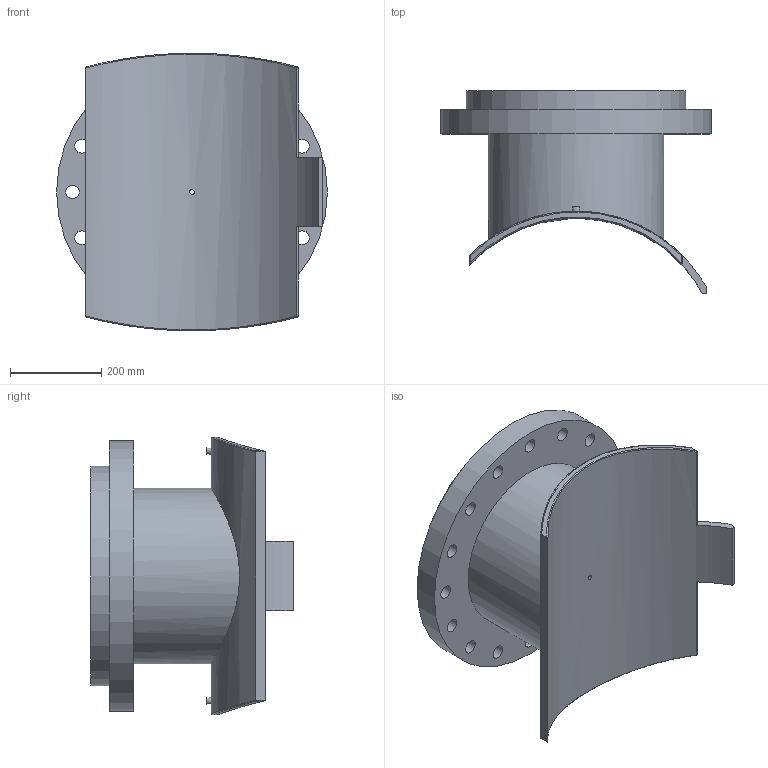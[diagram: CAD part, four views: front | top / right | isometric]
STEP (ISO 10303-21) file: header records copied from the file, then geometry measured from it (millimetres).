
FILE_DESCRIPTION(/* description */ ('PLASSON FLANGED BRANCH SADDLE 630X400'),/* implementation_level */ '2;1');
FILE_NAME(/* name */ 'C:\Dropbox\KIMPROJECTS-Inventor 2019\99-16-3568-Processing\ElectroFusion Fittings\495904_495903\stp\495903630400T.stp',/* time_stamp */ '2024-04-03T21:06:06+02:00',/* author */ ('KIM'),/* organization */ (''),/* preprocessor_version */ 'ST-DEVELOPER v17.2',/* originating_system */ 'Autodesk Inventor 2019',/* authorisation */ '');
FILE_SCHEMA (('AUTOMOTIVE_DESIGN { 1 0 10303 214 3 1 1 }'));
Length unit declared in the file: millimetre
Products named in the file (1): 495903630400T
Bounding box: 595 x 445.37 x 609.91 mm (x, y, z)
Volume: 25157551.5 mm3; surface area: 1775870.7 mm2
Topology: 1 solids, 1 shells, 67 faces, 178 edges, 136 vertices
Faces by surface type: cylinder 40, plane 17, sphere 4, bspline 4, cone 2
Full cylindrical faces by diameter (mm): 4 x2, 10 x2, 10.4 x1, 16 x1, 30 x16, 327 x1, 385.6 x1, 482 x1, 595 x1
Entity records: 2838 total; most frequent: CARTESIAN_POINT 1049, DIRECTION 360, ORIENTED_EDGE 328, EDGE_CURVE 164, AXIS2_PLACEMENT_3D 152, EDGE_LOOP 112, VERTEX_POINT 110, CIRCLE 88
